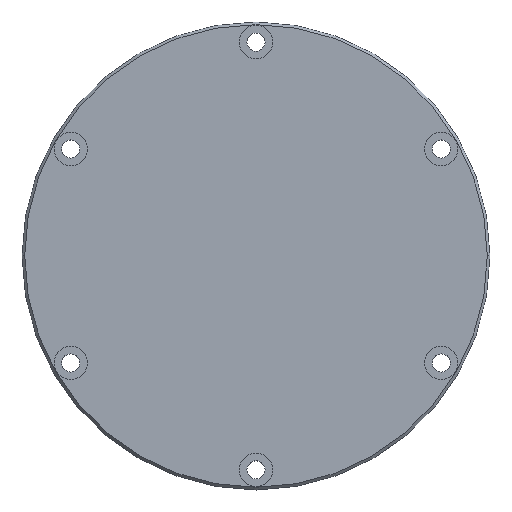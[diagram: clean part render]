
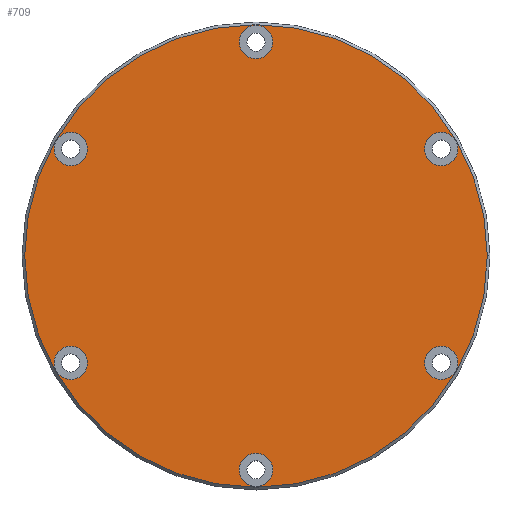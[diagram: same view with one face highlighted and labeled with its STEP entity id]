
A CAD part, top view. The second image highlights one B-rep face of the part: STEP entity #709.
In plain terms, the highlighted planar face has unit normal (0, 0, 1).
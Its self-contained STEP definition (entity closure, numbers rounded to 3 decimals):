
#681 = EDGE_CURVE('',#682,#684,#686,.T.);
#682 = VERTEX_POINT('',#683);
#683 = CARTESIAN_POINT('',(-3.969,50.8,12.7));
#684 = VERTEX_POINT('',#685);
#685 = CARTESIAN_POINT('',(3.969,50.8,12.7));
#686 = CIRCLE('',#687,3.969);
#687 = AXIS2_PLACEMENT_3D('',#688,#689,#690);
#688 = CARTESIAN_POINT('',(0.,50.8,12.7));
#689 = DIRECTION('',(0.,0.,1.));
#690 = DIRECTION('',(-1.,0.,0.));
#709 = ADVANCED_FACE('',(#710,#730,#750,#770,#790,#810,#830),#840,.T.);
#710 = FACE_BOUND('',#711,.F.);
#711 = EDGE_LOOP('',(#712,#723));
#712 = ORIENTED_EDGE('',*,*,#713,.F.);
#713 = EDGE_CURVE('',#714,#716,#718,.T.);
#714 = VERTEX_POINT('',#715);
#715 = CARTESIAN_POINT('',(-54.928,0.,12.7));
#716 = VERTEX_POINT('',#717);
#717 = CARTESIAN_POINT('',(54.928,0.,12.7));
#718 = CIRCLE('',#719,54.928);
#719 = AXIS2_PLACEMENT_3D('',#720,#721,#722);
#720 = CARTESIAN_POINT('',(0.,0.,12.7));
#721 = DIRECTION('',(0.,0.,1.));
#722 = DIRECTION('',(-1.,0.,0.));
#723 = ORIENTED_EDGE('',*,*,#724,.F.);
#724 = EDGE_CURVE('',#716,#714,#725,.T.);
#725 = CIRCLE('',#726,54.928);
#726 = AXIS2_PLACEMENT_3D('',#727,#728,#729);
#727 = CARTESIAN_POINT('',(0.,0.,12.7));
#728 = DIRECTION('',(0.,0.,1.));
#729 = DIRECTION('',(1.,0.,-0.));
#730 = FACE_BOUND('',#731,.F.);
#731 = EDGE_LOOP('',(#732,#743));
#732 = ORIENTED_EDGE('',*,*,#733,.T.);
#733 = EDGE_CURVE('',#734,#736,#738,.T.);
#734 = VERTEX_POINT('',#735);
#735 = CARTESIAN_POINT('',(40.025,25.4,12.7));
#736 = VERTEX_POINT('',#737);
#737 = CARTESIAN_POINT('',(47.963,25.4,12.7));
#738 = CIRCLE('',#739,3.969);
#739 = AXIS2_PLACEMENT_3D('',#740,#741,#742);
#740 = CARTESIAN_POINT('',(43.994,25.4,12.7));
#741 = DIRECTION('',(0.,0.,1.));
#742 = DIRECTION('',(-1.,0.,0.));
#743 = ORIENTED_EDGE('',*,*,#744,.T.);
#744 = EDGE_CURVE('',#736,#734,#745,.T.);
#745 = CIRCLE('',#746,3.969);
#746 = AXIS2_PLACEMENT_3D('',#747,#748,#749);
#747 = CARTESIAN_POINT('',(43.994,25.4,12.7));
#748 = DIRECTION('',(0.,0.,1.));
#749 = DIRECTION('',(1.,0.,-0.));
#750 = FACE_BOUND('',#751,.F.);
#751 = EDGE_LOOP('',(#752,#763));
#752 = ORIENTED_EDGE('',*,*,#753,.T.);
#753 = EDGE_CURVE('',#754,#756,#758,.T.);
#754 = VERTEX_POINT('',#755);
#755 = CARTESIAN_POINT('',(40.025,-25.4,12.7));
#756 = VERTEX_POINT('',#757);
#757 = CARTESIAN_POINT('',(47.963,-25.4,12.7));
#758 = CIRCLE('',#759,3.969);
#759 = AXIS2_PLACEMENT_3D('',#760,#761,#762);
#760 = CARTESIAN_POINT('',(43.994,-25.4,12.7));
#761 = DIRECTION('',(0.,0.,1.));
#762 = DIRECTION('',(-1.,0.,0.));
#763 = ORIENTED_EDGE('',*,*,#764,.T.);
#764 = EDGE_CURVE('',#756,#754,#765,.T.);
#765 = CIRCLE('',#766,3.969);
#766 = AXIS2_PLACEMENT_3D('',#767,#768,#769);
#767 = CARTESIAN_POINT('',(43.994,-25.4,12.7));
#768 = DIRECTION('',(0.,0.,1.));
#769 = DIRECTION('',(1.,0.,-0.));
#770 = FACE_BOUND('',#771,.F.);
#771 = EDGE_LOOP('',(#772,#783));
#772 = ORIENTED_EDGE('',*,*,#773,.T.);
#773 = EDGE_CURVE('',#774,#776,#778,.T.);
#774 = VERTEX_POINT('',#775);
#775 = CARTESIAN_POINT('',(-3.969,-50.8,12.7));
#776 = VERTEX_POINT('',#777);
#777 = CARTESIAN_POINT('',(3.969,-50.8,12.7));
#778 = CIRCLE('',#779,3.969);
#779 = AXIS2_PLACEMENT_3D('',#780,#781,#782);
#780 = CARTESIAN_POINT('',(0.,-50.8,12.7));
#781 = DIRECTION('',(0.,0.,1.));
#782 = DIRECTION('',(-1.,0.,0.));
#783 = ORIENTED_EDGE('',*,*,#784,.T.);
#784 = EDGE_CURVE('',#776,#774,#785,.T.);
#785 = CIRCLE('',#786,3.969);
#786 = AXIS2_PLACEMENT_3D('',#787,#788,#789);
#787 = CARTESIAN_POINT('',(0.,-50.8,12.7));
#788 = DIRECTION('',(0.,0.,1.));
#789 = DIRECTION('',(1.,0.,-0.));
#790 = FACE_BOUND('',#791,.F.);
#791 = EDGE_LOOP('',(#792,#803));
#792 = ORIENTED_EDGE('',*,*,#793,.T.);
#793 = EDGE_CURVE('',#794,#796,#798,.T.);
#794 = VERTEX_POINT('',#795);
#795 = CARTESIAN_POINT('',(-47.963,-25.4,12.7));
#796 = VERTEX_POINT('',#797);
#797 = CARTESIAN_POINT('',(-40.025,-25.4,12.7));
#798 = CIRCLE('',#799,3.969);
#799 = AXIS2_PLACEMENT_3D('',#800,#801,#802);
#800 = CARTESIAN_POINT('',(-43.994,-25.4,12.7));
#801 = DIRECTION('',(0.,0.,1.));
#802 = DIRECTION('',(-1.,0.,0.));
#803 = ORIENTED_EDGE('',*,*,#804,.T.);
#804 = EDGE_CURVE('',#796,#794,#805,.T.);
#805 = CIRCLE('',#806,3.969);
#806 = AXIS2_PLACEMENT_3D('',#807,#808,#809);
#807 = CARTESIAN_POINT('',(-43.994,-25.4,12.7));
#808 = DIRECTION('',(0.,0.,1.));
#809 = DIRECTION('',(1.,0.,-0.));
#810 = FACE_BOUND('',#811,.F.);
#811 = EDGE_LOOP('',(#812,#823));
#812 = ORIENTED_EDGE('',*,*,#813,.T.);
#813 = EDGE_CURVE('',#814,#816,#818,.T.);
#814 = VERTEX_POINT('',#815);
#815 = CARTESIAN_POINT('',(-47.963,25.4,12.7));
#816 = VERTEX_POINT('',#817);
#817 = CARTESIAN_POINT('',(-40.025,25.4,12.7));
#818 = CIRCLE('',#819,3.969);
#819 = AXIS2_PLACEMENT_3D('',#820,#821,#822);
#820 = CARTESIAN_POINT('',(-43.994,25.4,12.7));
#821 = DIRECTION('',(0.,0.,1.));
#822 = DIRECTION('',(-1.,0.,0.));
#823 = ORIENTED_EDGE('',*,*,#824,.T.);
#824 = EDGE_CURVE('',#816,#814,#825,.T.);
#825 = CIRCLE('',#826,3.969);
#826 = AXIS2_PLACEMENT_3D('',#827,#828,#829);
#827 = CARTESIAN_POINT('',(-43.994,25.4,12.7));
#828 = DIRECTION('',(0.,0.,1.));
#829 = DIRECTION('',(1.,0.,-0.));
#830 = FACE_BOUND('',#831,.F.);
#831 = EDGE_LOOP('',(#832,#833));
#832 = ORIENTED_EDGE('',*,*,#681,.T.);
#833 = ORIENTED_EDGE('',*,*,#834,.T.);
#834 = EDGE_CURVE('',#684,#682,#835,.T.);
#835 = CIRCLE('',#836,3.969);
#836 = AXIS2_PLACEMENT_3D('',#837,#838,#839);
#837 = CARTESIAN_POINT('',(0.,50.8,12.7));
#838 = DIRECTION('',(0.,0.,1.));
#839 = DIRECTION('',(1.,0.,-0.));
#840 = PLANE('',#841);
#841 = AXIS2_PLACEMENT_3D('',#842,#843,#844);
#842 = CARTESIAN_POINT('',(0.,0.,12.7));
#843 = DIRECTION('',(0.,0.,1.));
#844 = DIRECTION('',(1.,0.,-0.));
